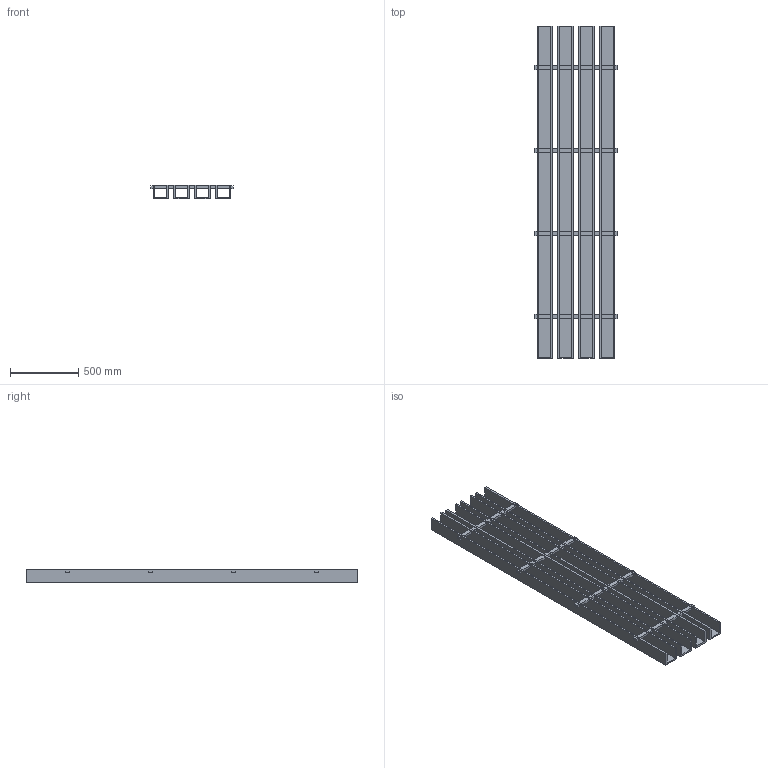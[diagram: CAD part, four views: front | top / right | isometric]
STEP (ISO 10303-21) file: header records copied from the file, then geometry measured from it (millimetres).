
FILE_DESCRIPTION(/* description */ (''),/* implementation_level */ '2;1');
FILE_NAME(/* name */ 'PET GRILLA_4.5x4_8ft',/* time_stamp */ '2024-10-15T14:22:25-05:00',/* author */ (''),/* organization */ (''),/* preprocessor_version */ 'ST-DEVELOPER v19.2',/* originating_system */ 'Rhino 8.4',/* authorisation */ '');
FILE_SCHEMA (('CONFIG_CONTROL_DESIGN'));
Length unit declared in the file: inch
Products named in the file (1): Document
Bounding box: 603.25 x 2438.4 x 101.6 mm (x, y, z)
Volume: 37396304.2 mm3; surface area: 6145471.6 mm2
Topology: 1 solids, 1 shells, 192 faces, 528 edges, 352 vertices
Faces by surface type: plane 192
Entity records: 5440 total; most frequent: CARTESIAN_POINT 1602, ORIENTED_EDGE 1056, EDGE_CURVE 528, B_SPLINE_CURVE_WITH_KNOTS 528, VERTEX_POINT 352, EDGE_LOOP 256, DIRECTION 196, AXIS2_PLACEMENT_3D 194
